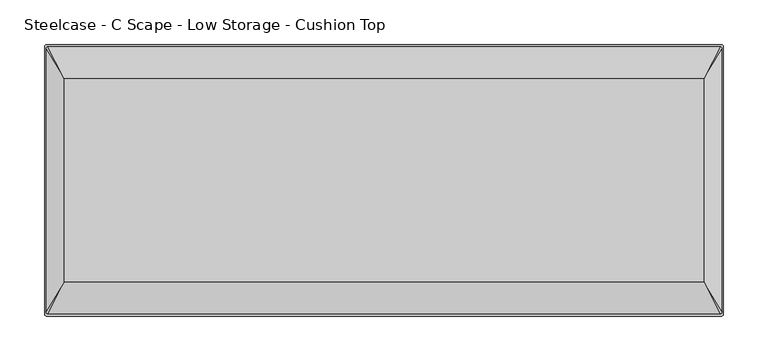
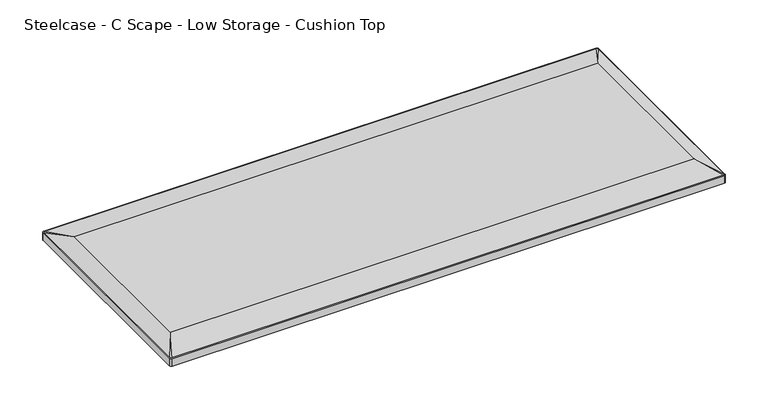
"""IFC4 building model written with IfcOpenShell, lengths in millimetres: furniture geometry, Steelcase - C Scape - Low Storage - Cushion Top : 12D x 30W."""

from ifc_helpers import new_model, si_unit, point, frame, frame_2d, origin, place, context, project, spatial, polyline, circle_curve, trimmed, segment, composite_curve, outline, extrude, source, transform, mapped, element, save
from ifc_brep_helpers import plane_surface, spline_surface, advanced_brep


def steelcase_c_scape_low_storage_cushion_top_9c90e3af(model_context):
    return source(origin(), model_context, "Body", "SolidModel", [
        extrude(outline(composite_curve([segment(trimmed(circle_curve(frame_2d((759.46, 149.86)), 2.54), [point((759.46, 152.4))], [point((762.0, 149.86))], False, "CARTESIAN"), True, "CONTINUOUS"), segment(polyline([(762.0, 149.86), (762.0, -149.86)]), True, "CONTINUOUS"), segment(trimmed(circle_curve(frame_2d((759.46, -149.86)), 2.54), [point((762.0, -149.86))], [point((759.46, -152.4))], False, "CARTESIAN"), True, "CONTINUOUS"), segment(polyline([(759.46, -152.4), (2.54, -152.4)]), True, "CONTINUOUS"), segment(trimmed(circle_curve(frame_2d((2.54, -149.86)), 2.54), [point((2.54, -152.4))], [point((0.0, -149.86))], False, "CARTESIAN"), True, "CONTINUOUS"), segment(polyline([(0.0, -149.86), (0.0, 149.86)]), True, "CONTINUOUS"), segment(trimmed(circle_curve(frame_2d((2.54, 149.86)), 2.54), [point((0.0, 149.86))], [point((2.54, 152.4))], False, "CARTESIAN"), True, "CONTINUOUS"), segment(polyline([(2.54, 152.4), (759.46, 152.4)]), True, "CONTINUOUS")], self_intersect=False)), frame((0.0, 0.0, 599.44), z_axis=(0.0, 0.0, 1.0), x_axis=(1.0, 0.0, 0.0)), (0.0, 0.0, 1.0), 10.9220174),
        advanced_brep(
        [(759.46, 152.4, 610.3620174), (762.0, 149.86, 610.3620174), (762.0, -149.86, 610.3620174), (759.46, -152.4, 610.3620174), (2.54, -152.4, 610.3620174), (0.0, -149.86, 610.3620174), (0.0, 149.86, 610.3620174), (2.54, 152.4, 610.3620174), (739.902, 114.0206021, 618.4900097), (22.0725989, 114.0206021, 618.4900097), (22.0725989, -114.0206021, 618.4900097), (739.902, -114.0206021, 618.4900097)],
        [
            (0, 1, circle_curve(frame((759.46, 149.86, 610.3620174), z_axis=(0.0, 0.0, -1.0), x_axis=(1.0, 0.0, 0.0)), 2.54)),
            (1, 2),
            (2, 3, circle_curve(frame((759.46, -149.86, 610.3620174), z_axis=(0.0, 0.0, -1.0), x_axis=(1.0, 0.0, 0.0)), 2.54)),
            (3, 4),
            (4, 5, circle_curve(frame((2.54, -149.86, 610.3620174), z_axis=(0.0, 0.0, -1.0), x_axis=(1.0, 0.0, 0.0)), 2.54)),
            (5, 6),
            (6, 7, circle_curve(frame((2.54, 149.86, 610.3620174), z_axis=(0.0, 0.0, -1.0), x_axis=(1.0, 0.0, 0.0)), 2.54)),
            (7, 0),
            (8, 9),
            (9, 10),
            (10, 11),
            (11, 8),
            (8, 0),
            (7, 9),
            (9, 6),
            (5, 10),
            (10, 4),
            (3, 11),
            (11, 2),
            (1, 8),
        ],
        [
            plane_surface(frame((381.0, 0.0, 610.3620174), z_axis=(0.0, 0.0, -1.0), x_axis=(-1.0, 0.0, 0.0))),
            plane_surface(frame((380.9872995, 0.0, 618.4900097), z_axis=(0.0, 0.0, 1.0), x_axis=(-1.0, 0.0, 0.0))),
            plane_surface(frame((380.9872995, 114.0206021, 618.4900097), z_axis=(0.0, 0.20718484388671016, 0.9783018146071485), x_axis=(1.0, 0.0, 0.0))),
            plane_surface(frame((22.0725989, 0.0, 618.4900097), z_axis=(-0.3455549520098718, 0.0, 0.9383985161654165), x_axis=(0.0, 1.0, 0.0))),
            plane_surface(frame((380.9872995, -114.0206021, 618.4900097), z_axis=(0.0, -0.20718484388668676, 0.9783018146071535), x_axis=(-1.0, 0.0, 0.0))),
            plane_surface(frame((739.902, 0.0, 618.4900097), z_axis=(0.3452051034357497, 0.0, 0.9385272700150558), x_axis=(0.0, -1.0, 0.0))),
            spline_surface(2, 1, [[(739.902, 114.0206021, 618.4900097), (759.46, 152.4, 610.3620174)], [(739.902, 114.0206021, 618.4900097), (762.0, 152.40000000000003, 610.3620174)], [(739.902, 114.0206021, 618.4900097), (762.0, 149.86, 610.3620174)]], [3, 3], [2, 2], [0.0, 1.0], [0.0, 1.0], weights=[[1.0, 1.0], [0.7071067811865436, 0.7071067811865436], [1.0, 1.0]]),
            spline_surface(2, 1, [[(739.902, -114.0206021, 618.4900097), (762.0, -149.86, 610.3620174)], [(739.902, -114.0206021, 618.4900097), (762.0, -152.39999999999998, 610.3620174)], [(739.902, -114.0206021, 618.4900097), (759.46, -152.4, 610.3620174)]], [3, 3], [2, 2], [0.0, 1.0], [0.0, 1.0], weights=[[1.0, 1.0], [0.7071067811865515, 0.7071067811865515], [1.0, 1.0]]),
            spline_surface(2, 1, [[(22.0725989, -114.0206021, 618.4900097), (2.54, -152.4, 610.3620174)], [(22.0725989, -114.0206021, 618.4900097), (7.993605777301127e-15, -152.4, 610.3620174)], [(22.0725989, -114.0206021, 618.4900097), (0.0, -149.86, 610.3620174)]], [3, 3], [2, 2], [0.0, 1.0], [0.0, 1.0], weights=[[1.0, 1.0], [0.7071067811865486, 0.7071067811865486], [1.0, 1.0]]),
            spline_surface(2, 1, [[(22.0725989, 114.0206021, 618.4900097), (0.0, 149.86, 610.3620174)], [(22.0725989, 114.0206021, 618.4900097), (-8.43769498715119e-15, 152.4, 610.3620174)], [(22.0725989, 114.0206021, 618.4900097), (2.54, 152.4, 610.3620174)]], [3, 3], [2, 2], [0.0, 1.0], [0.0, 1.0], weights=[[1.0, 1.0], [0.7071067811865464, 0.7071067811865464], [1.0, 1.0]]),
        ],
        [
            (0, [[1, 2, 3, 4, 5, 6, 7, 8]]),
            (1, [[9, 10, 11, 12]]),
            (2, [[-9, 13, -8, 14]]),
            (3, [[-10, 15, -6, 16]]),
            (4, [[-11, 17, -4, 18]]),
            (5, [[-12, 19, -2, 20]]),
            (6, [[-1, -13, -20]]),
            (7, [[-3, -19, -18]]),
            (8, [[-5, -17, -16]]),
            (9, [[-7, -15, -14]]),
        ],
    ),
    ])


if __name__ == "__main__":
    model = new_model("IFC4")
    model_context = context("Model", 3, world=origin())
    ifc_project = project(units=[si_unit("LENGTHUNIT", "METRE", prefix="MILLI")], contexts=[model_context])
    site = spatial("IfcSite", under=ifc_project)
    building = spatial("IfcBuilding", under=site)
    placement = place(None, origin())
    steelcase_c_scape_low_storage_cushion_top_shape = steelcase_c_scape_low_storage_cushion_top_9c90e3af(model_context)
    element("IfcFurniture", 1, ObjectType="Steelcase - C Scape - Low Storage - Cushion Top : 12D x 30W", at=placement, inside=building, context=model_context, shape_type="MappedRepresentation", body=[
        mapped(steelcase_c_scape_low_storage_cushion_top_shape, transform((0.0, 0.0, 0.0), x_axis=(1.0, 0.0, 0.0), y_axis=(0.0, 1.0, 0.0), z_axis=(0.0, 0.0, 1.0))),
    ])
    save(model, "model.ifc")
